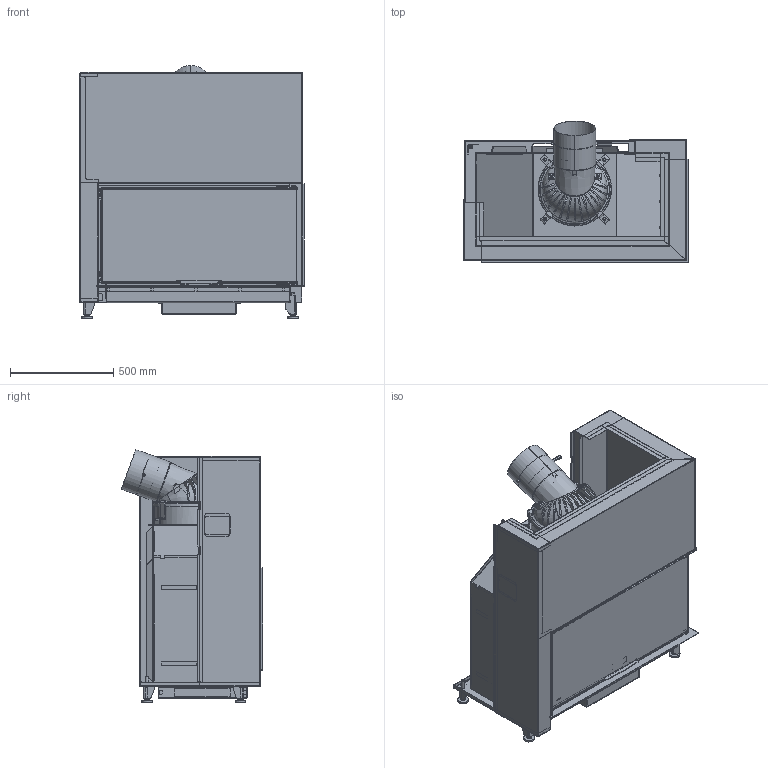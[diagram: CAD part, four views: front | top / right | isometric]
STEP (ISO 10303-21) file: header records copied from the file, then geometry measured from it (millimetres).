
FILE_DESCRIPTION(/* description */ (''),/* implementation_level */ '2;1');
FILE_NAME(/* name */ 'C:\ADSK_DM_WS\CAD_3D\03 Geraete\RII 50x100x50\Zeichnungen\RII_50x100x50_Rechts_ohne_Mantel_Hinten_Gen2_2022-03123.stp',/* time_stamp */ '2022-08-02T10:30:20+02:00',/* author */ ('TIS'),/* organization */ (''),/* preprocessor_version */ 'ST-DEVELOPER v18.1',/* originating_system */ 'Autodesk Inventor 2022',/* authorisation */ '');
FILE_SCHEMA (('AUTOMOTIVE_DESIGN { 1 0 10303 214 3 1 1 }'));
Products named in the file (7): 2022-03123; 2022-03120; 2022-03117; 2022-03116; 2022-03115; 2022-03114; 2022-03112
Assembly tree (6 placements, depth 2):
  2022-03123
    2022-03120
    2022-03117
    2022-03116
    2022-03115
    2022-03114
    2022-03112
Bounding box: 1088.9 x 684.89 x 1225.27 mm (x, y, z)
Volume: 58649376.4 mm3; surface area: 20013344.9 mm2
Topology: 23 solids, 34 shells, 7833 faces, 20647 edges, 12775 vertices
Faces by surface type: plane 4905, cylinder 2467, bspline 226, cone 172, torus 63
Full cylindrical faces by diameter (mm): 3.242 x6, 4.5 x4, 4.8 x10, 6 x5, 7.5 x1, 7.9 x1, 8 x9, 9 x3, 9.5 x10, 10 x7, 10.21 x2, 11.192 x3, 11.4 x6, 12 x2, 14 x1, 16 x17, 20 x2, 30 x4, 163 x1, 333 x1, 339 x1
Entity records: 256832 total; most frequent: CARTESIAN_POINT 53132, ORIENTED_EDGE 41254, DIRECTION 40861, EDGE_CURVE 20674, AXIS2_PLACEMENT_3D 13623, LINE 13615, VECTOR 13615, VERTEX_POINT 12777
